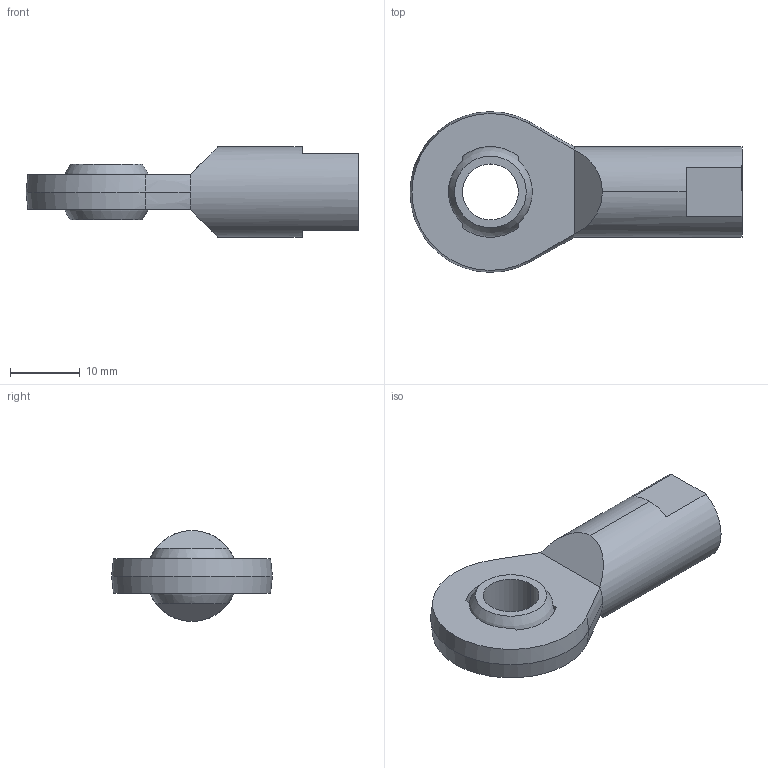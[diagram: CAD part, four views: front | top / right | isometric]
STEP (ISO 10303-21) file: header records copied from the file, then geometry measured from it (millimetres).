
FILE_DESCRIPTION (( 'STEP AP203' ), '1' );
FILE_NAME ('65880.W0108.step', '2014-02-06T18:34:31', ( 'User' ), ( '' ), 'SwSTEP 2.0', 'SolidWorks 2009', '' );
FILE_SCHEMA (( 'CONFIG_CONTROL_DESIGN' ));
Length unit declared in the file: millimetre
Products named in the file (3): 65880.W0108; Part1_65880.W0108; Part2_65880.W0108
Assembly tree (2 placements, depth 2):
  65880.W0108
    Part2_65880.W0108
    Part1_65880.W0108
Bounding box: 47.5 x 23 x 13 mm (x, y, z)
Volume: 4111.6 mm3; surface area: 3266.5 mm2
Topology: 2 solids, 2 shells, 45 faces, 108 edges, 67 vertices
Faces by surface type: plane 20, cylinder 10, sphere 8, cone 7
Entity records: 1624 total; most frequent: DIRECTION 253, CARTESIAN_POINT 253, ORIENTED_EDGE 208, AXIS2_PLACEMENT_3D 107, EDGE_CURVE 104, VERTEX_POINT 67, CIRCLE 57, EDGE_LOOP 53
